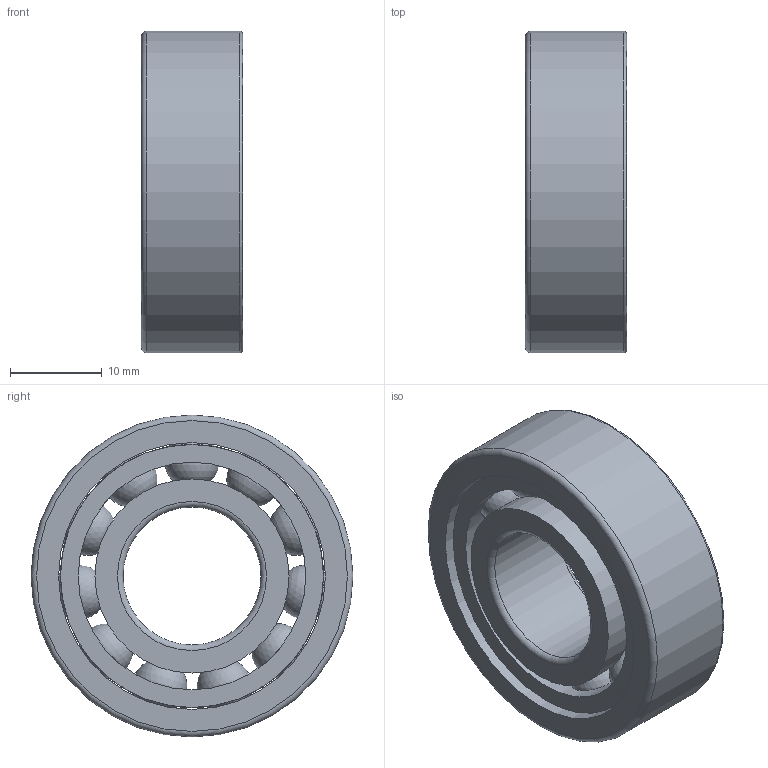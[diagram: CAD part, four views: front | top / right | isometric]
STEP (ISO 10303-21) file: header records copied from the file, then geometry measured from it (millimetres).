
FILE_DESCRIPTION(/* description */ (''),/* implementation_level */ '2;1');
FILE_NAME(/* name */ 'S_6202_TA.step',/* time_stamp */ '2013-03-06T14:49:00+01:00',/* author */ ('Marian'),/* organization */ ('GMN'),/* preprocessor_version */ 'ST-DEVELOPER v11',/* originating_system */ 'SIEMENS UGS NX 6.0',/* authorisation */ '');
FILE_SCHEMA (('CONFIG_CONTROL_DESIGN'));
Length unit declared in the file: millimetre
Products named in the file (1): S_6202_TA
Bounding box: 11 x 35 x 35 mm (x, y, z)
Volume: 6362.5 mm3; surface area: 7135.4 mm2
Topology: 14 solids, 14 shells, 42 faces, 100 edges, 64 vertices
Faces by surface type: cylinder 18, sphere 11, torus 6, plane 6, cone 1
Full cylindrical faces by diameter (mm): 6.153 x11, 15 x1, 21.1 x2, 24.733 x1, 28.6 x1, 29 x1, 35 x1
Entity records: 2192 total; most frequent: CARTESIAN_POINT 1392, DIRECTION 126, FACE_BOUND 95, EDGE_LOOP 84, ORIENTED_EDGE 84, AXIS2_PLACEMENT_3D 63, VERTEX_POINT 53, EDGE_CURVE 42
